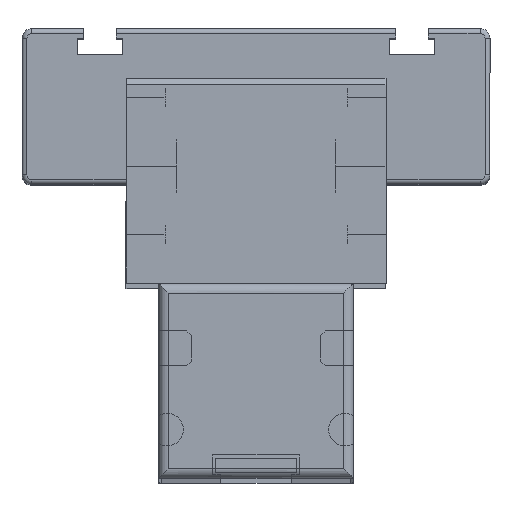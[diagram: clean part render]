
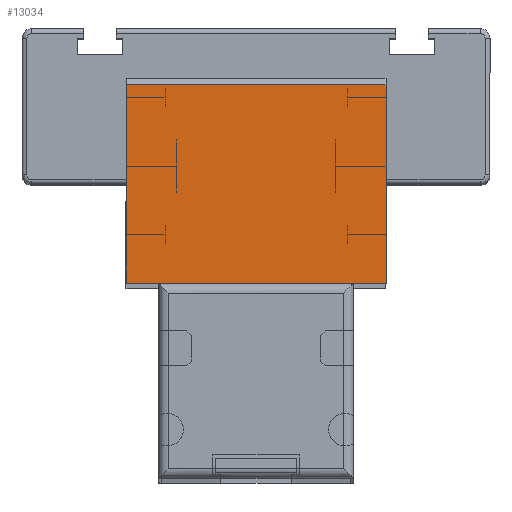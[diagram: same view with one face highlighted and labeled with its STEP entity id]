
A CAD part, top view. The second image highlights one B-rep face of the part: STEP entity #13034.
In plain terms, the highlighted planar face has unit normal (0, 0, 1).
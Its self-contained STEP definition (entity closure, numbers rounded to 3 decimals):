
#251 = ORIENTED_EDGE ( 'NONE', *, *, #5446, .F. ) ;
#848 = LINE ( 'NONE', #4057, #13351 ) ;
#1448 = CARTESIAN_POINT ( 'NONE',  ( -40., 0., 29.5 ) ) ;
#1536 = VECTOR ( 'NONE', #1969, 1000. ) ;
#1908 = EDGE_CURVE ( 'NONE', #5295, #3637, #11829, .T. ) ;
#1969 = DIRECTION ( 'NONE',  ( -1., 0., 0. ) ) ;
#2734 = ORIENTED_EDGE ( 'NONE', *, *, #3498, .T. ) ;
#3072 = LINE ( 'NONE', #9303, #1536 ) ;
#3353 = DIRECTION ( 'NONE',  ( 0., -1., 0. ) ) ;
#3498 = EDGE_CURVE ( 'NONE', #4508, #11428, #13115, .T. ) ;
#3637 = VERTEX_POINT ( 'NONE', #13661 ) ;
#3742 = DIRECTION ( 'NONE',  ( 0., -1., 0. ) ) ;
#4057 = CARTESIAN_POINT ( 'NONE',  ( 40., 61., 29.5 ) ) ;
#4508 = VERTEX_POINT ( 'NONE', #13761 ) ;
#4592 = ORIENTED_EDGE ( 'NONE', *, *, #1908, .F. ) ;
#5295 = VERTEX_POINT ( 'NONE', #13714 ) ;
#5309 = CARTESIAN_POINT ( 'NONE',  ( 40., 0., 29.5 ) ) ;
#5333 = FACE_OUTER_BOUND ( 'NONE', #11078, .T. ) ;
#5446 = EDGE_CURVE ( 'NONE', #3637, #11428, #3072, .T. ) ;
#5513 = EDGE_CURVE ( 'NONE', #5295, #4508, #848, .T. ) ;
#6386 = CARTESIAN_POINT ( 'NONE',  ( 40., 0., 29.5 ) ) ;
#8036 = ORIENTED_EDGE ( 'NONE', *, *, #5513, .T. ) ;
#9303 = CARTESIAN_POINT ( 'NONE',  ( 40., 0., 29.5 ) ) ;
#9605 = DIRECTION ( 'NONE',  ( 0., 0., -1. ) ) ;
#10520 = VECTOR ( 'NONE', #3353, 1000. ) ;
#10659 = PLANE ( 'NONE',  #11270 ) ;
#11078 = EDGE_LOOP ( 'NONE', ( #4592, #8036, #2734, #251 ) ) ;
#11270 = AXIS2_PLACEMENT_3D ( 'NONE', #6386, #9605, #11710 ) ;
#11428 = VERTEX_POINT ( 'NONE', #13035 ) ;
#11710 = DIRECTION ( 'NONE',  ( 0., 1., 0. ) ) ;
#11829 = LINE ( 'NONE', #5309, #10520 ) ;
#11894 = VECTOR ( 'NONE', #3742, 1000. ) ;
#13034 = ADVANCED_FACE ( 'NONE', ( #5333 ), #10659, .F. ) ;
#13035 = CARTESIAN_POINT ( 'NONE',  ( -40., 0., 29.5 ) ) ;
#13115 = LINE ( 'NONE', #1448, #11894 ) ;
#13351 = VECTOR ( 'NONE', #13692, 1000. ) ;
#13661 = CARTESIAN_POINT ( 'NONE',  ( 40., 0., 29.5 ) ) ;
#13692 = DIRECTION ( 'NONE',  ( -1., 0., 0. ) ) ;
#13714 = CARTESIAN_POINT ( 'NONE',  ( 40., 61., 29.5 ) ) ;
#13761 = CARTESIAN_POINT ( 'NONE',  ( -40., 61., 29.5 ) ) ;
